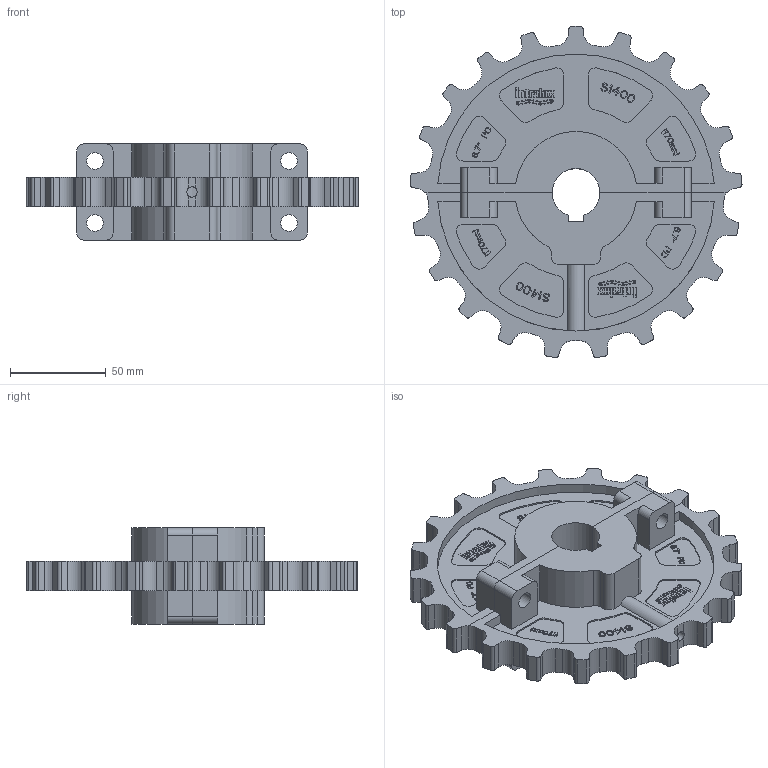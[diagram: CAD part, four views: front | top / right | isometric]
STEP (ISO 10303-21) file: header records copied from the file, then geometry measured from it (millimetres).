
FILE_DESCRIPTION((''),'2;1');
FILE_NAME('S1400_SPLIT_67_PILOT_ASM','2008-12-12T',('jmumphre'),(''),'PRO/ENGINEER BY PARAMETRIC TECHNOLOGY CORPORATION, 2008150','PRO/ENGINEER BY PARAMETRIC TECHNOLOGY CORPORATION, 2008150','');
FILE_SCHEMA(('CONFIG_CONTROL_DESIGN'));
Length unit declared in the file: inch
Products named in the file (3): S1400_SPLIT_67_PILOT_BOLT_AF0; S1400_SPLIT_67_PILOT_NUT_AF0; S1400_SPLIT_67_PILOT_ASM
Assembly tree (2 placements, depth 2):
  S1400_SPLIT_67_PILOT_ASM
    S1400_SPLIT_67_PILOT_BOLT_AF0
    S1400_SPLIT_67_PILOT_NUT_AF0
Bounding box: 173.6 x 173.14 x 50.29 mm (x, y, z)
Volume: 310891.2 mm3; surface area: 93734.6 mm2
Topology: 2 solids, 2 shells, 1837 faces, 5202 edges, 3468 vertices
Faces by surface type: plane 1398, cylinder 439
Entity records: 59368 total; most frequent: CARTESIAN_POINT 10636, ORIENTED_EDGE 10404, DIRECTION 9752, EDGE_CURVE 5202, VECTOR 4320, LINE 4320, VERTEX_POINT 3468, AXIS2_PLACEMENT_3D 2716
